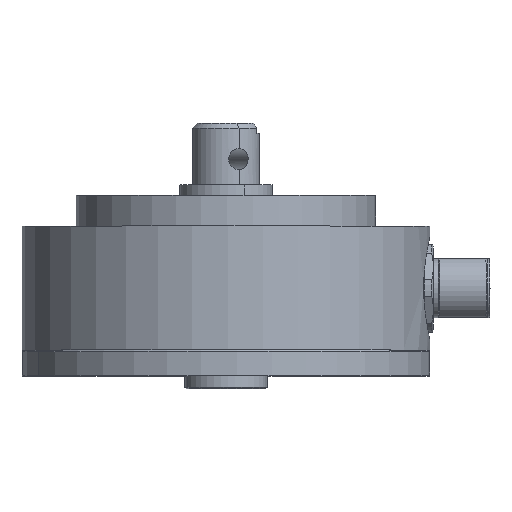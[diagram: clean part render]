
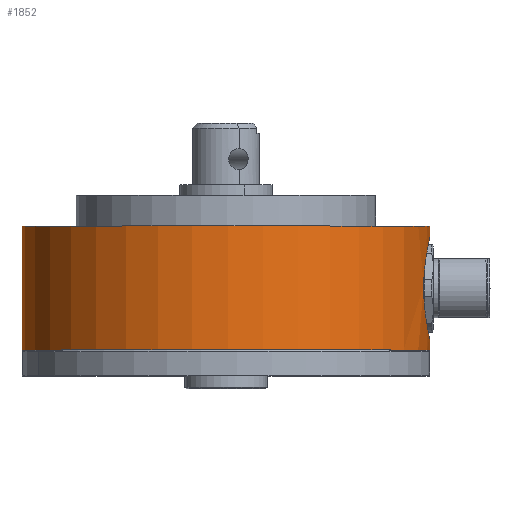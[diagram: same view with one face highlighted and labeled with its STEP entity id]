
A CAD part, top view. The second image highlights one B-rep face of the part: STEP entity #1852.
In plain terms, the highlighted cylindrical face has radius 39.5 mm (diameter 79 mm), a partial arc.
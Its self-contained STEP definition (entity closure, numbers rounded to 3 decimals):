
#50 = DIRECTION ( 'NONE',  ( 0., 1., 0. ) ) ;
#81 = CARTESIAN_POINT ( 'NONE',  ( 40.385, -8.666, 10.216 ) ) ;
#112 = B_SPLINE_CURVE_WITH_KNOTS ( 'NONE', 3,
 ( #798, #3886, #9448, #6314, #1564, #7102, #2361, #7884, #3146, #8675, #3922, #9487, #4709, #81, #5530, #825, #6342, #1597, #7138, #2400, #7919, #3192, #8708, #3956, #9522, #4748, #114, #5560, #1009, #6534, #1775, #7313, #2572, #8095, #3363, #8890, #4136, #9701, #4921, #298, #5733, #1036, #6564, #1818, #7347, #2610, #8132, #3397, #8924, #4169 ),
 .UNSPECIFIED., .F., .F.,
 ( 4, 2, 2, 2, 2, 2, 2, 2, 2, 2, 2, 2, 2, 2, 2, 2, 2, 2, 2, 2, 2, 2, 2, 2, 4 ),
 ( 0., 0.002, 0.003, 0.004, 0.006, 0.007, 0.008, 0.01, 0.011, 0.012, 0.013, 0.014, 0.016, 0.018, 0.02, 0.021, 0.022, 0.023, 0.024, 0.025, 0.026, 0.027, 0.029, 0.03, 0.031 ),
 .UNSPECIFIED. ) ;
#114 = CARTESIAN_POINT ( 'NONE',  ( 39.861, -0.743, 12.626 ) ) ;
#298 = CARTESIAN_POINT ( 'NONE',  ( 40.728, 6.431, 7.982 ) ) ;
#503 = ORIENTED_EDGE ( 'NONE', *, *, #3865, .T. ) ;
#798 = CARTESIAN_POINT ( 'NONE',  ( 41.032, -12.055, 2.679 ) ) ;
#825 = CARTESIAN_POINT ( 'NONE',  ( 40.193, -7.346, 11.179 ) ) ;
#1009 = CARTESIAN_POINT ( 'NONE',  ( 39.97, 1.166, 12.18 ) ) ;
#1036 = CARTESIAN_POINT ( 'NONE',  ( 40.827, 6.911, 7.122 ) ) ;
#1065 = DIRECTION ( 'NONE',  ( 0., 1., 0. ) ) ;
#1084 = VERTEX_POINT ( 'NONE', #9414 ) ;
#1121 = VERTEX_POINT ( 'NONE', #9214 ) ;
#1189 = LINE ( 'NONE', #7382, #7254 ) ;
#1209 = AXIS2_PLACEMENT_3D ( 'NONE', #2132, #2952, #9126 ) ;
#1424 = VECTOR ( 'NONE', #9383, 1000. ) ;
#1564 = CARTESIAN_POINT ( 'NONE',  ( 40.974, -11.718, 5.274 ) ) ;
#1597 = CARTESIAN_POINT ( 'NONE',  ( 40.09, -6.489, 11.658 ) ) ;
#1775 = CARTESIAN_POINT ( 'NONE',  ( 40.089, 2.375, 11.66 ) ) ;
#1781 = VERTEX_POINT ( 'NONE', #7966 ) ;
#1818 = CARTESIAN_POINT ( 'NONE',  ( 40.936, 7.429, 5.918 ) ) ;
#1852 = ADVANCED_FACE ( 'NONE', ( #3330 ), #8629, .T. ) ;
#1884 = ORIENTED_EDGE ( 'NONE', *, *, #3875, .T. ) ;
#2132 = CARTESIAN_POINT ( 'NONE',  ( 1.534, -14.055, 3.07 ) ) ;
#2361 = CARTESIAN_POINT ( 'NONE',  ( 40.91, -11.415, 6.216 ) ) ;
#2400 = CARTESIAN_POINT ( 'NONE',  ( 40.001, -5.594, 12.048 ) ) ;
#2538 = ORIENTED_EDGE ( 'NONE', *, *, #3863, .T. ) ;
#2572 = CARTESIAN_POINT ( 'NONE',  ( 40.192, 3.231, 11.183 ) ) ;
#2610 = CARTESIAN_POINT ( 'NONE',  ( 41.015, 7.814, 4.328 ) ) ;
#2644 = CARTESIAN_POINT ( 'NONE',  ( 1.534, 9.945, 3.07 ) ) ;
#2888 = CARTESIAN_POINT ( 'NONE',  ( -37.964, 9.945, 3.461 ) ) ;
#2893 = CARTESIAN_POINT ( 'NONE',  ( 41.032, -12.055, 2.679 ) ) ;
#2952 = DIRECTION ( 'NONE',  ( 0., 1., 0. ) ) ;
#2999 = ORIENTED_EDGE ( 'NONE', *, *, #3849, .T. ) ;
#3146 = CARTESIAN_POINT ( 'NONE',  ( 40.766, -10.73, 7.698 ) ) ;
#3192 = CARTESIAN_POINT ( 'NONE',  ( 39.929, -4.66, 12.35 ) ) ;
#3330 = FACE_OUTER_BOUND ( 'NONE', #6036, .T. ) ;
#3363 = CARTESIAN_POINT ( 'NONE',  ( 40.305, 4.032, 10.627 ) ) ;
#3397 = CARTESIAN_POINT ( 'NONE',  ( 41.035, 7.929, 3.341 ) ) ;
#3438 = DIRECTION ( 'NONE',  ( -1., 0., 0.01 ) ) ;
#3526 = LINE ( 'NONE', #9738, #7744 ) ;
#3849 = EDGE_CURVE ( 'NONE', #1781, #8143, #7494, .T. ) ;
#3861 = EDGE_CURVE ( 'NONE', #1084, #1781, #9595, .T. ) ;
#3863 = EDGE_CURVE ( 'NONE', #8143, #7730, #112, .T. ) ;
#3865 = EDGE_CURVE ( 'NONE', #7730, #1121, #3526, .T. ) ;
#3875 = EDGE_CURVE ( 'NONE', #1121, #8961, #5619, .T. ) ;
#3879 = EDGE_CURVE ( 'NONE', #1084, #8961, #1189, .T. ) ;
#3886 = CARTESIAN_POINT ( 'NONE',  ( 41.039, -12.055, 3.342 ) ) ;
#3922 = CARTESIAN_POINT ( 'NONE',  ( 40.62, -9.99, 8.778 ) ) ;
#3956 = CARTESIAN_POINT ( 'NONE',  ( 39.861, -3.369, 12.626 ) ) ;
#4136 = CARTESIAN_POINT ( 'NONE',  ( 40.424, 4.781, 9.991 ) ) ;
#4169 = CARTESIAN_POINT ( 'NONE',  ( 41.032, 7.945, 2.679 ) ) ;
#4673 = CARTESIAN_POINT ( 'NONE',  ( 1.534, -14.055, 3.07 ) ) ;
#4709 = CARTESIAN_POINT ( 'NONE',  ( 40.504, -9.355, 9.526 ) ) ;
#4748 = CARTESIAN_POINT ( 'NONE',  ( 39.844, -1.409, 12.692 ) ) ;
#4753 = ORIENTED_EDGE ( 'NONE', *, *, #3879, .F. ) ;
#4921 = CARTESIAN_POINT ( 'NONE',  ( 40.621, 5.888, 8.793 ) ) ;
#4974 = ORIENTED_EDGE ( 'NONE', *, *, #3861, .T. ) ;
#5494 = DIRECTION ( 'NONE',  ( -1., 0., 0.01 ) ) ;
#5530 = CARTESIAN_POINT ( 'NONE',  ( 40.306, -8.165, 10.63 ) ) ;
#5560 = CARTESIAN_POINT ( 'NONE',  ( 39.924, 0.541, 12.37 ) ) ;
#5619 = CIRCLE ( 'NONE', #9857, 39.5 ) ;
#5733 = CARTESIAN_POINT ( 'NONE',  ( 40.763, 6.6, 7.702 ) ) ;
#5769 = DIRECTION ( 'NONE',  ( 0., 1., 0. ) ) ;
#6036 = EDGE_LOOP ( 'NONE', ( #4974, #2999, #2538, #503, #1884, #4753 ) ) ;
#6279 = CARTESIAN_POINT ( 'NONE',  ( 41.032, -14.055, 2.679 ) ) ;
#6314 = CARTESIAN_POINT ( 'NONE',  ( 40.99, -11.798, 4.956 ) ) ;
#6342 = CARTESIAN_POINT ( 'NONE',  ( 40.157, -7.064, 11.349 ) ) ;
#6534 = CARTESIAN_POINT ( 'NONE',  ( 40.057, 2.076, 11.802 ) ) ;
#6564 = CARTESIAN_POINT ( 'NONE',  ( 40.856, 7.052, 6.824 ) ) ;
#7102 = CARTESIAN_POINT ( 'NONE',  ( 40.934, -11.527, 5.904 ) ) ;
#7138 = CARTESIAN_POINT ( 'NONE',  ( 40.058, -6.195, 11.797 ) ) ;
#7254 = VECTOR ( 'NONE', #1065, 1000. ) ;
#7313 = CARTESIAN_POINT ( 'NONE',  ( 40.157, 2.952, 11.35 ) ) ;
#7347 = CARTESIAN_POINT ( 'NONE',  ( 40.977, 7.619, 5.295 ) ) ;
#7382 = CARTESIAN_POINT ( 'NONE',  ( -37.964, -14.055, 3.461 ) ) ;
#7494 = LINE ( 'NONE', #6279, #1424 ) ;
#7730 = VERTEX_POINT ( 'NONE', #9720 ) ;
#7744 = VECTOR ( 'NONE', #5769, 1000. ) ;
#7884 = CARTESIAN_POINT ( 'NONE',  ( 40.83, -11.038, 7.124 ) ) ;
#7919 = CARTESIAN_POINT ( 'NONE',  ( 39.974, -5.288, 12.159 ) ) ;
#7966 = CARTESIAN_POINT ( 'NONE',  ( 41.032, -14.055, 2.679 ) ) ;
#8095 = CARTESIAN_POINT ( 'NONE',  ( 40.267, 3.771, 10.821 ) ) ;
#8132 = CARTESIAN_POINT ( 'NONE',  ( 41.025, 7.863, 4. ) ) ;
#8143 = VERTEX_POINT ( 'NONE', #2893 ) ;
#8162 = DIRECTION ( 'NONE',  ( 0., -1., 0. ) ) ;
#8629 = CYLINDRICAL_SURFACE ( 'NONE', #1209, 39.5 ) ;
#8675 = CARTESIAN_POINT ( 'NONE',  ( 40.658, -10.186, 8.513 ) ) ;
#8708 = CARTESIAN_POINT ( 'NONE',  ( 39.909, -4.338, 12.432 ) ) ;
#8890 = CARTESIAN_POINT ( 'NONE',  ( 40.383, 4.537, 10.213 ) ) ;
#8924 = CARTESIAN_POINT ( 'NONE',  ( 41.035, 7.945, 3.011 ) ) ;
#8961 = VERTEX_POINT ( 'NONE', #2888 ) ;
#9126 = DIRECTION ( 'NONE',  ( -1., 0., 0.01 ) ) ;
#9214 = CARTESIAN_POINT ( 'NONE',  ( 41.032, 9.945, 2.679 ) ) ;
#9383 = DIRECTION ( 'NONE',  ( 0., 1., 0. ) ) ;
#9414 = CARTESIAN_POINT ( 'NONE',  ( -37.964, -14.055, 3.461 ) ) ;
#9448 = CARTESIAN_POINT ( 'NONE',  ( 41.028, -11.99, 3.994 ) ) ;
#9487 = CARTESIAN_POINT ( 'NONE',  ( 40.543, -9.574, 9.285 ) ) ;
#9522 = CARTESIAN_POINT ( 'NONE',  ( 39.845, -2.719, 12.691 ) ) ;
#9595 = CIRCLE ( 'NONE', #9858, 39.5 ) ;
#9701 = CARTESIAN_POINT ( 'NONE',  ( 40.543, 5.476, 9.296 ) ) ;
#9720 = CARTESIAN_POINT ( 'NONE',  ( 41.032, 7.945, 2.679 ) ) ;
#9738 = CARTESIAN_POINT ( 'NONE',  ( 41.032, -14.055, 2.679 ) ) ;
#9857 = AXIS2_PLACEMENT_3D ( 'NONE', #2644, #8162, #3438 ) ;
#9858 = AXIS2_PLACEMENT_3D ( 'NONE', #4673, #50, #5494 ) ;
